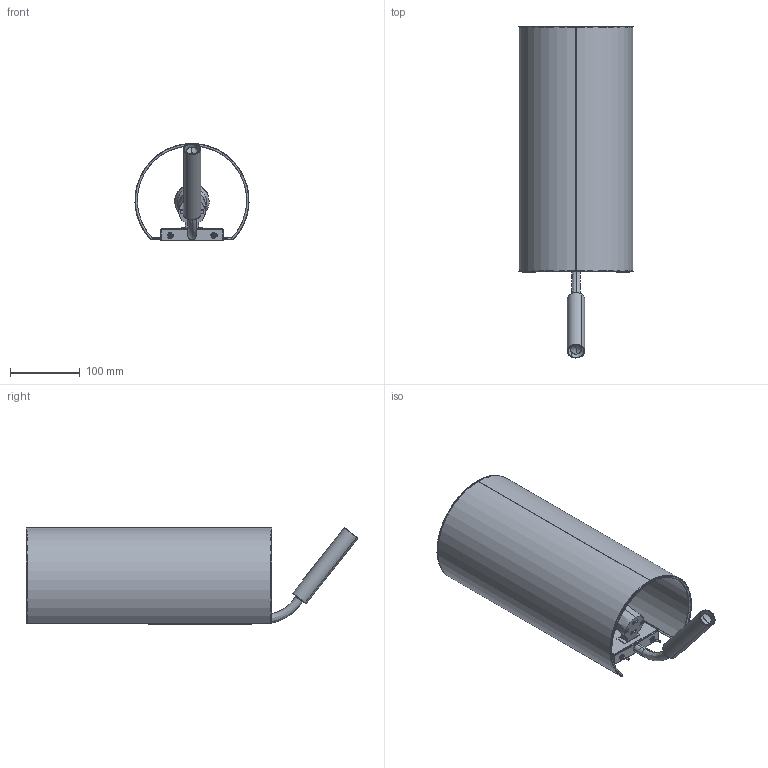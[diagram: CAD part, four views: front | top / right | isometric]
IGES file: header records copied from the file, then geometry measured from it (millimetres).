
Start section: SolidWorks IGES file using analytic representation for surfaces
Global section: file name: Z:\Modele 3D_WWW\_KOLEKCJE_WWW\VELERO\VELERO-II-7983-7984\VELERO-II-7983-7984.IGS; native system: SolidWorks 2020; preprocessor: SolidWorks 2020; author: gabriela.tworek; date: 210510.121649; units: millimetre
Bounding box: 164 x 477.31 x 139.54 mm (x, y, z)
Surface area: 383681.2 mm2 (no closed solid volume)
Topology: 0 solids, 0 shells, 433 faces, 5212 edges, 5185 vertices
Faces by surface type: bspline 238, revolution 195
